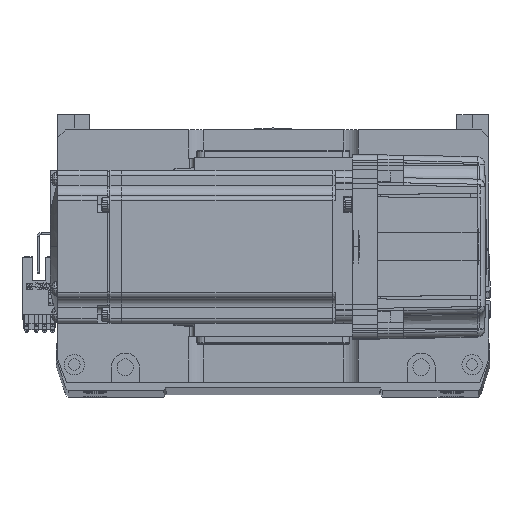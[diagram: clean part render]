
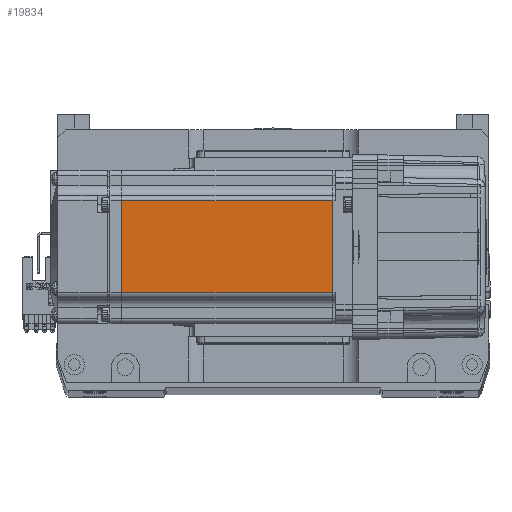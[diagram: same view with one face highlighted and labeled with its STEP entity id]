
A CAD part, top view. The second image highlights one B-rep face of the part: STEP entity #19834.
In plain terms, the highlighted planar face has unit normal (0, 0, 1).
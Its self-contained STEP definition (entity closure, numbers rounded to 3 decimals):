
#720 = LINE ( 'NONE', #11869, #55945 ) ;
#2459 = PLANE ( 'NONE',  #47461 ) ;
#4521 = VECTOR ( 'NONE', #57005, 1000. ) ;
#5278 = VERTEX_POINT ( 'NONE', #59621 ) ;
#5832 = CARTESIAN_POINT ( 'NONE',  ( -7.75, 0., 30. ) ) ;
#6084 = CARTESIAN_POINT ( 'NONE',  ( -6.5, -18., 30. ) ) ;
#6251 = CARTESIAN_POINT ( 'NONE',  ( -7.75, 18., 30. ) ) ;
#7523 = CARTESIAN_POINT ( 'NONE',  ( -6.5, -25., 30. ) ) ;
#10886 = DIRECTION ( 'NONE',  ( 0., -1., 0. ) ) ;
#11535 = VERTEX_POINT ( 'NONE', #16076 ) ;
#11869 = CARTESIAN_POINT ( 'NONE',  ( -90.45, 0., 30. ) ) ;
#13220 = DIRECTION ( 'NONE',  ( 0., 0., 1. ) ) ;
#13232 = ORIENTED_EDGE ( 'NONE', *, *, #17681, .F. ) ;
#14551 = VERTEX_POINT ( 'NONE', #57804 ) ;
#14612 = EDGE_LOOP ( 'NONE', ( #62833, #18545, #64501, #13232 ) ) ;
#16076 = CARTESIAN_POINT ( 'NONE',  ( -90.45, 18., 30. ) ) ;
#16885 = LINE ( 'NONE', #5832, #55584 ) ;
#17681 = EDGE_CURVE ( 'NONE', #5278, #14551, #47134, .T. ) ;
#18545 = ORIENTED_EDGE ( 'NONE', *, *, #38669, .T. ) ;
#19834 = ADVANCED_FACE ( 'NONE', ( #56441 ), #2459, .T. ) ;
#20499 = EDGE_CURVE ( 'NONE', #54669, #5278, #16885, .T. ) ;
#28822 = CARTESIAN_POINT ( 'NONE',  ( -6.5, 18., 30. ) ) ;
#32569 = DIRECTION ( 'NONE',  ( 0., -1., 0. ) ) ;
#35352 = VECTOR ( 'NONE', #45429, 1000. ) ;
#38669 = EDGE_CURVE ( 'NONE', #54669, #11535, #44861, .T. ) ;
#43494 = DIRECTION ( 'NONE',  ( 1., 0., 0. ) ) ;
#44861 = LINE ( 'NONE', #28822, #35352 ) ;
#45429 = DIRECTION ( 'NONE',  ( -1., 0., 0. ) ) ;
#45800 = EDGE_CURVE ( 'NONE', #11535, #14551, #720, .T. ) ;
#47134 = LINE ( 'NONE', #6084, #4521 ) ;
#47461 = AXIS2_PLACEMENT_3D ( 'NONE', #7523, #13220, #43494 ) ;
#54669 = VERTEX_POINT ( 'NONE', #6251 ) ;
#55584 = VECTOR ( 'NONE', #10886, 1000. ) ;
#55945 = VECTOR ( 'NONE', #32569, 1000. ) ;
#56441 = FACE_OUTER_BOUND ( 'NONE', #14612, .T. ) ;
#57005 = DIRECTION ( 'NONE',  ( -1., 0., 0. ) ) ;
#57804 = CARTESIAN_POINT ( 'NONE',  ( -90.45, -18., 30. ) ) ;
#59621 = CARTESIAN_POINT ( 'NONE',  ( -7.75, -18., 30. ) ) ;
#62833 = ORIENTED_EDGE ( 'NONE', *, *, #20499, .F. ) ;
#64501 = ORIENTED_EDGE ( 'NONE', *, *, #45800, .T. ) ;
